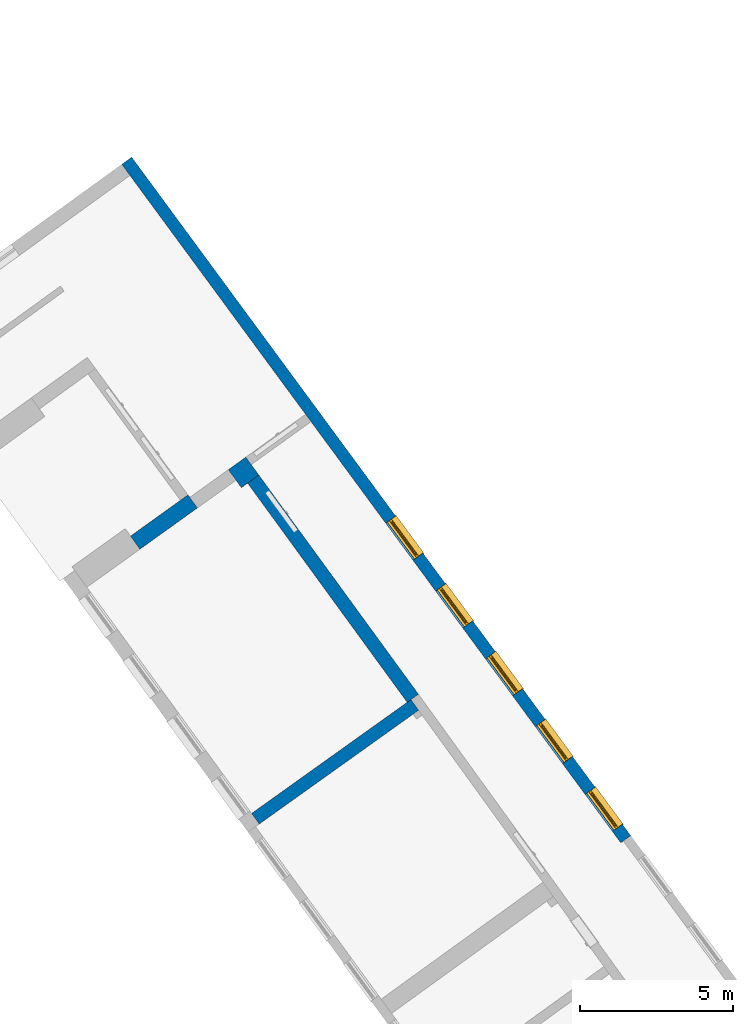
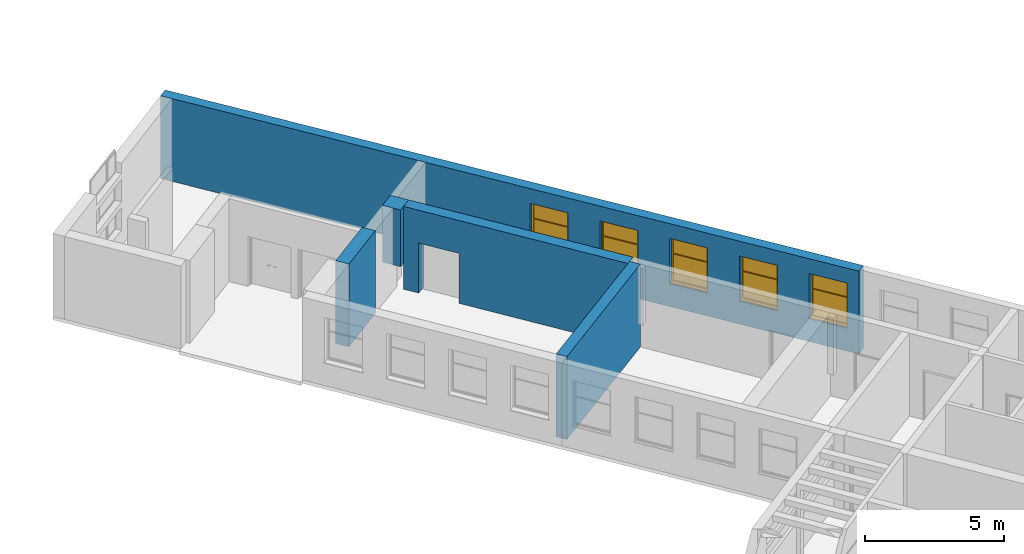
"""IFC2X3 building model written with IfcOpenShell, lengths in millimetres."""

from ifc_helpers import new_model, entity, si_unit, converted_unit, derived_unit, direction, frame, frame_2d, origin, place, context, subcontext, project, spatial, polyline, rectangle, outline, extrude, faceted_brep, source, transform, mapped, material, material_list, layer, layer_set, layer_usage, type_object, type_shapes, element, fill, save


model = new_model("IFC2X3")

# Units and contexts
model_context = context("Model", 3, precision=0.01, world=origin(), true_north=direction((6.123031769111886e-17, 1.0)))
body_context = subcontext(model_context, "Body", "Model", "MODEL_VIEW")
ifc_project = project(units=[si_unit("LENGTHUNIT", "METRE", prefix="MILLI"), si_unit("AREAUNIT", "SQUARE_METRE"), si_unit("VOLUMEUNIT", "CUBIC_METRE"), converted_unit("PLANEANGLEUNIT", "DEGREE", entity("IfcRatioMeasure", 0.017453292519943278), si_unit("PLANEANGLEUNIT", "RADIAN"), dimensions=[0, 0, 0, 0, 0, 0, 0]), si_unit("MASSUNIT", "GRAM", prefix="KILO"), derived_unit("MASSDENSITYUNIT", [(si_unit("MASSUNIT", "GRAM", prefix="KILO"), 1), (si_unit("LENGTHUNIT", "METRE"), -3)]), derived_unit("MOMENTOFINERTIAUNIT", [(si_unit("LENGTHUNIT", "METRE"), 4)]), si_unit("TIMEUNIT", "SECOND"), si_unit("FREQUENCYUNIT", "HERTZ"), si_unit("THERMODYNAMICTEMPERATUREUNIT", "DEGREE_CELSIUS"), derived_unit("THERMALTRANSMITTANCEUNIT", [(si_unit("MASSUNIT", "GRAM", prefix="KILO"), 1), (si_unit("THERMODYNAMICTEMPERATUREUNIT", "KELVIN"), -1), (si_unit("TIMEUNIT", "SECOND"), -3)]), derived_unit("THERMALCONDUCTANCEUNIT", [(si_unit("MASSUNIT", "GRAM", prefix="KILO"), 1), (si_unit("LENGTHUNIT", "METRE"), 1), (si_unit("THERMODYNAMICTEMPERATUREUNIT", "KELVIN"), -1), (si_unit("TIMEUNIT", "SECOND"), -3)]), derived_unit("VOLUMETRICFLOWRATEUNIT", [(si_unit("LENGTHUNIT", "METRE"), 3), (si_unit("TIMEUNIT", "SECOND"), -1)]), derived_unit("MASSFLOWRATEUNIT", [(si_unit("MASSUNIT", "GRAM", prefix="KILO"), 1), (si_unit("TIMEUNIT", "SECOND"), -1)]), derived_unit("ROTATIONALFREQUENCYUNIT", [(si_unit("TIMEUNIT", "SECOND"), -1)]), si_unit("ELECTRICCURRENTUNIT", "AMPERE"), si_unit("ELECTRICVOLTAGEUNIT", "VOLT"), si_unit("POWERUNIT", "WATT"), converted_unit("FORCEUNIT", "KIP", entity("IfcRatioMeasure", 2.088543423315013e-05), si_unit("FORCEUNIT", "NEWTON"), dimensions=[1, 1, -2, 0, 0, 0, 0]), si_unit("ILLUMINANCEUNIT", "LUX"), si_unit("LUMINOUSFLUXUNIT", "LUMEN"), si_unit("LUMINOUSINTENSITYUNIT", "CANDELA"), derived_unit("USERDEFINED", [(si_unit("MASSUNIT", "GRAM", prefix="KILO"), -1), (si_unit("LENGTHUNIT", "METRE"), -2), (si_unit("TIMEUNIT", "SECOND"), 3), (si_unit("LUMINOUSFLUXUNIT", "LUMEN"), 1)]), derived_unit("USERDEFINED", [(si_unit("MASSUNIT", "GRAM", prefix="KILO"), 1), (si_unit("LENGTHUNIT", "METRE"), 3), (si_unit("TIMEUNIT", "SECOND"), -3), (si_unit("ELECTRICCURRENTUNIT", "AMPERE"), -2)]), derived_unit("USERDEFINED", [(si_unit("LENGTHUNIT", "METRE"), 2), (si_unit("TIMEUNIT", "SECOND"), -2)]), derived_unit("SOUNDPOWERUNIT", [(si_unit("MASSUNIT", "GRAM", prefix="KILO"), 1), (si_unit("LENGTHUNIT", "METRE"), 2), (si_unit("TIMEUNIT", "SECOND"), -3)]), derived_unit("SOUNDPRESSUREUNIT", [(si_unit("MASSUNIT", "GRAM", prefix="KILO"), 1), (si_unit("LENGTHUNIT", "METRE"), -1), (si_unit("TIMEUNIT", "SECOND"), -2)]), derived_unit("LINEARVELOCITYUNIT", [(si_unit("LENGTHUNIT", "METRE"), 1), (si_unit("TIMEUNIT", "SECOND"), -1)]), si_unit("PRESSUREUNIT", "PASCAL"), derived_unit("USERDEFINED", [(si_unit("LENGTHUNIT", "METRE"), -2), (si_unit("MASSUNIT", "GRAM", prefix="KILO"), 1), (si_unit("TIMEUNIT", "SECOND"), -2)]), derived_unit("LINEARFORCEUNIT", [(si_unit("MASSUNIT", "GRAM", prefix="KILO"), 1), (si_unit("LENGTHUNIT", "METRE"), 1), (si_unit("TIMEUNIT", "SECOND"), -2), (si_unit("LENGTHUNIT", "METRE"), -1)]), derived_unit("PLANARFORCEUNIT", [(si_unit("MASSUNIT", "GRAM", prefix="KILO"), 1), (si_unit("LENGTHUNIT", "METRE"), 1), (si_unit("TIMEUNIT", "SECOND"), -2), (si_unit("LENGTHUNIT", "METRE"), -2)]), derived_unit("SPECIFICHEATCAPACITYUNIT", [(si_unit("LENGTHUNIT", "METRE"), 2), (si_unit("TIMEUNIT", "SECOND"), -2), (si_unit("THERMODYNAMICTEMPERATUREUNIT", "KELVIN"), -1)]), derived_unit("VAPORPERMEABILITYUNIT", [(si_unit("TIMEUNIT", "SECOND"), 1), (si_unit("LENGTHUNIT", "METRE"), -1)]), derived_unit("DYNAMICVISCOSITYUNIT", [(si_unit("MASSUNIT", "GRAM", prefix="KILO"), 1), (si_unit("LENGTHUNIT", "METRE"), -1), (si_unit("TIMEUNIT", "SECOND"), -1)]), derived_unit("THERMALEXPANSIONCOEFFICIENTUNIT", [(si_unit("THERMODYNAMICTEMPERATUREUNIT", "KELVIN"), -1)])], contexts=[model_context])

# Site, building, storey
site_placement = place(None, frame((0.0, 0.0, 0.0), z_axis=(0.0, 0.0, 1.0), x_axis=(0.8191520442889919, 0.5735764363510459, 0.0)))
site = spatial("IfcSite", under=ifc_project, at=site_placement, Name="Default", CompositionType="ELEMENT")
building_placement = place(site_placement, origin())
building = spatial("IfcBuilding", under=site, at=building_placement, CompositionType="ELEMENT")
storey_1_placement = place(building_placement, origin())
storey_1 = spatial("IfcBuildingStorey", under=building, at=storey_1_placement, Name="1.EG +0.00", CompositionType="ELEMENT", Elevation=-4.331468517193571e-12)

# Wall, opening
ifc_material_1 = material(Name="Analytical Wall Surface_CJC")
ifc_layer_1 = layer(ifc_material_1, 450.00000000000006)
ifc_layer_set_1 = layer_set([ifc_layer_1], Name="Basic Wall:Wand_Innen_45")
ifc_layer_usage_1 = layer_usage(ifc_layer_set_1, "AXIS2", "POSITIVE", -225.00000000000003)
wall_type_1 = type_object("IfcWallType", Name="Basic Wall:Wand_Innen_45", PredefinedType="STANDARD", material=ifc_layer_set_1)
wall_1_placement = place(storey_1_placement, frame((-184403.73033555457, 178460.05173972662, -1150.0), z_axis=(0.0, 0.0, 1.0), x_axis=(-0.018532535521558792, 0.9998282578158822, 0.0)))
wall_1 = element("IfcWallStandardCase", 1, at=wall_1_placement, inside=storey_1, type_object=wall_type_1, material=ifc_layer_usage_1, Name="Basic Wall:Wand_Innen_45", ObjectType="Basic Wall:Wand_Innen_45", context=body_context, shape_type="SweptSolid", body=[
    extrude(outline(polyline([(0.0, -225.0), (8865.515535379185, -225.0), (8865.5155353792, 225.0), (7085.786152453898, 225.0), (6785.780042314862, 225.0), (4773.382208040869, 225.0), (4473.375205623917, 225.0), (2443.311171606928, 225.0), (2143.311149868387, 225.0), (4.133318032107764, 225.0), (2.7581255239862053, 75.28090656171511), (0.0, -225.0)])), origin(), (0.0, 0.0, 1.0), 3650.000000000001),
])
opening_1_placement = place(wall_1_placement, frame((8265.515535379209, 225.0, 0.0)))
element("IfcOpeningElement", 2, at=opening_1_placement, cuts=wall_1, Name="M_Door-Passage-Double-Flush:150x210:1", ObjectType="Opening", context=body_context, shape_type="SweptSolid", body=[
    extrude(rectangle(XDim=2200.0, YDim=1599.999999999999, at=frame_2d((1100.0, 799.9999999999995), x_axis=(1.0, 0.0))), frame((0.0, 0.0, 0.0), z_axis=(0.0, -1.0, 0.0), x_axis=(0.0, 0.0, 1.0)), (0.0, 0.0, 1.0), 449.99999999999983),
])

# Wall, openings
ifc_layer_2 = layer(ifc_material_1, 400.0)
ifc_layer_set_2 = layer_set([ifc_layer_2], Name="Basic Wall:Wand_Aussen_40")
ifc_layer_usage_2 = layer_usage(ifc_layer_set_2, "AXIS2", "POSITIVE", -200.0)
wall_type_2 = type_object("IfcWallType", Name="Basic Wall:Wand_Aussen_40", PredefinedType="STANDARD", material=ifc_layer_set_2)
wall_2_placement = place(storey_1_placement, frame((-181345.3016697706, 170698.64050641, -1150.0), z_axis=(0.0, 0.0, 1.0), x_axis=(-0.02327581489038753, 0.9997290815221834, 0.0)))
wall_2 = element("IfcWallStandardCase", 3, at=wall_2_placement, inside=storey_1, type_object=wall_type_2, material=ifc_layer_usage_2, Name="Basic Wall:Wand_Aussen_40", ObjectType="Basic Wall:Wand_Aussen_40", context=body_context, shape_type="SweptSolid", body=[
    extrude(outline(polyline([(27523.528676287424, -200.0), (27526.658686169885, 200.0), (27076.644909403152, 200.0), (17386.73076779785, 200.0), (17086.710123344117, 200.0), (0.0, 200.0), (0.0, 100.0), (0.0, -200.0), (27523.528676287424, -200.0)])), origin(), (0.0, 0.0, 1.0), 3650.0000000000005),
])
opening_2_placement = place(wall_2_placement, frame((11463.509414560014, -200.0, 1000.0)))
opening_2 = element("IfcOpeningElement", 4, at=opening_2_placement, cuts=wall_2, Name="Windows_Sgl_Horz_Bars:200x150:1", ObjectType="Opening", context=body_context, shape_type="SweptSolid", body=[
    extrude(rectangle(XDim=2000.000000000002, YDim=1500.0, at=frame_2d((1000.0000000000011, 750.0000000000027), x_axis=(-1.0, 0.0))), frame((0.0, 0.0, 0.0), z_axis=(0.0, 1.0, 0.0), x_axis=(0.0, 0.0, 1.0)), (0.0, 0.0, 1.0), 400.0),
])
opening_3_placement = place(wall_2_placement, frame((8713.50941455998, -200.0, 1000.0)))
opening_3 = element("IfcOpeningElement", 5, at=opening_3_placement, cuts=wall_2, Name="Windows_Sgl_Horz_Bars:200x150:1", ObjectType="Opening", context=body_context, shape_type="SweptSolid", body=[
    extrude(rectangle(XDim=2000.000000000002, YDim=1500.0, at=frame_2d((1000.0000000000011, 750.0000000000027), x_axis=(-1.0, 0.0))), frame((0.0, 0.0, 0.0), z_axis=(0.0, 1.0, 0.0), x_axis=(0.0, 0.0, 1.0)), (0.0, 0.0, 1.0), 400.0),
])
opening_4_placement = place(wall_2_placement, frame((5963.509414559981, -200.0, 1000.0)))
opening_4 = element("IfcOpeningElement", 6, at=opening_4_placement, cuts=wall_2, Name="Windows_Sgl_Horz_Bars:200x150:1", ObjectType="Opening", context=body_context, shape_type="SweptSolid", body=[
    extrude(rectangle(XDim=2000.000000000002, YDim=1500.0, at=frame_2d((1000.0000000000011, 750.0000000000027), x_axis=(-1.0, 0.0))), frame((0.0, 0.0, 0.0), z_axis=(0.0, 1.0, 0.0), x_axis=(0.0, 0.0, 1.0)), (0.0, 0.0, 1.0), 400.0),
])
opening_5_placement = place(wall_2_placement, frame((3213.5094145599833, -200.0, 1000.0)))
opening_5 = element("IfcOpeningElement", 7, at=opening_5_placement, cuts=wall_2, Name="Windows_Sgl_Horz_Bars:200x150:1", ObjectType="Opening", context=body_context, shape_type="SweptSolid", body=[
    extrude(rectangle(XDim=2000.000000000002, YDim=1500.0, at=frame_2d((1000.0000000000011, 750.0000000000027), x_axis=(-1.0, 0.0))), frame((0.0, 0.0, 0.0), z_axis=(0.0, 1.0, 0.0), x_axis=(0.0, 0.0, 1.0)), (0.0, 0.0, 1.0), 400.0),
])
opening_6_placement = place(wall_2_placement, frame((463.50941455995, -200.0, 1000.0)))
opening_6 = element("IfcOpeningElement", 8, at=opening_6_placement, cuts=wall_2, Name="Windows_Sgl_Horz_Bars:200x150:1", ObjectType="Opening", context=body_context, shape_type="SweptSolid", body=[
    extrude(rectangle(XDim=2000.000000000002, YDim=1500.0000000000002, at=frame_2d((1000.0000000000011, 750.00000000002), x_axis=(-1.0, 0.0))), frame((0.0, 0.0, 0.0), z_axis=(0.0, 1.0, 0.0), x_axis=(0.0, 0.0, 1.0)), (0.0, 0.0, 1.0), 400.0),
])

# Storey
storey_2_placement = place(building_placement, frame((0.0, 0.0, -1150.0)))
storey_2 = spatial("IfcBuildingStorey", under=building, at=storey_2_placement, Name="6.EG KH -1.15", CompositionType="ELEMENT", Elevation=-1150.0000000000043)

# Window
ifc_material_2 = material(Name="Window Frame")
ifc_material_3 = material(Name="Glass")
ifc_material_list = material_list([ifc_material_2, ifc_material_3])
window_style = type_object("IfcWindowStyle", Name="Windows_Sgl_Horz_Bars:200x150", ConstructionType="NOTDEFINED", OperationType="SINGLE_PANEL", ParameterTakesPrecedence=False, Sizeable=False, material=ifc_material_list)
shared_shape = source(origin(), body_context, "Body", "Brep", [
    faceted_brep([(-25.0, -25.0, 0.0), (-25.0, 0.0, 0.0), (0.0, 0.0, 0.0), (0.0, 167.0, 0.0), (1500.0, 167.0, 0.0), (1500.0, 0.0, 0.0), (1525.0, 0.0, 0.0), (1525.0, -25.0, 0.0), (-25.0, -25.0, 25.0), (1525.0, -25.0, 25.0), (1525.0, 0.0, 25.0), (1500.0, 0.0, 25.0), (1500.0, 167.0, 25.0), (0.0, 167.0, 25.0), (0.0, 0.0, 25.0), (-25.0, 0.0, 25.0)], [[[0, 1, 2, 3, 4, 5, 6, 7]], [[8, 9, 10, 11, 12, 13, 14, 15]], [[1, 0, 8, 15]], [[2, 1, 15, 14]], [[3, 2, 14, 13]], [[4, 3, 13, 12]], [[5, 4, 12, 11]], [[6, 5, 11, 10]], [[7, 6, 10, 9]], [[0, 7, 9, 8]]]),
    faceted_brep([(0.0, 167.0, 0.0), (1500.0, 167.0, 0.0), (1500.0, 167.0, 2000.0), (0.0, 167.0, 2000.0), (60.0, 167.0, 1940.0), (1440.0, 167.0, 1940.0), (1440.0, 167.0, 75.0), (60.0, 167.0, 75.0), (0.0, 250.0, 2000.0), (0.0, 250.0, 51.0), (0.0, 265.0, 49.68767004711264), (0.0, 265.0, 44.74496761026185), (0.0, 337.50000000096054, 33.80888466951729), (0.0, 337.50000000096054, 0.0), (1500.0, 250.0, 2000.0), (1500.0, 250.0, 51.0), (40.0, 250.0, 1960.0), (40.0, 250.0, 63.0), (1460.0, 250.0, 63.0), (1460.0, 250.0, 1960.0), (40.0, 185.0, 1960.0), (40.0, 185.0, 63.0), (60.0, 185.0, 1940.0), (60.0, 185.0, 75.0), (1440.0, 185.0, 75.0), (1440.0, 185.0, 1940.0), (1460.0, 185.0, 1960.0), (1460.0, 185.0, 63.0), (1500.0, 337.50000000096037, 0.0), (1500.0, 337.50000000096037, 33.80888466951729), (1500.0, 265.0, 44.74496761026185), (1500.0, 265.0, 49.68767004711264)], [[[0, 1, 2, 3], [4, 5, 6, 7]], [[0, 3, 8, 9, 10, 11, 12, 13]], [[9, 8, 14, 15], [16, 17, 18, 19]], [[17, 16, 20, 21]], [[22, 23, 24, 25], [20, 26, 27, 21]], [[22, 4, 7, 23]], [[3, 2, 14, 8]], [[16, 19, 26, 20]], [[5, 4, 22, 25]], [[15, 14, 2, 1, 28, 29, 30, 31]], [[19, 18, 27, 26]], [[5, 25, 24, 6]], [[28, 1, 0, 13]], [[29, 28, 13, 12]], [[30, 29, 12, 11]], [[31, 30, 11, 10]], [[15, 31, 10, 9]], [[21, 27, 18, 17]], [[7, 6, 24, 23]]], outer=[[True, False], [True], [True, False], [True], [False, True], [True], [True], [True], [True], [True], [True], [True], [True], [True], [True], [True], [True], [True], [True]]),
    faceted_brep([(1430.1480377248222, 214.0, 93.0), (1430.1480377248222, 214.0, 1254.8307627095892), (70.0, 214.0, 1254.8307627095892), (70.0, 214.0, 93.0), (1430.1480377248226, 238.0, 93.0), (1430.1480377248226, 238.0, 1254.8307627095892), (70.0, 238.0, 1254.8307627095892), (70.0, 238.0, 93.0)], [[[0, 1, 2, 3]], [[1, 0, 4, 5]], [[2, 1, 5, 6]], [[3, 2, 6, 7]], [[0, 3, 7, 4]], [[4, 7, 6, 5]]]),
    faceted_brep([(70.0, 238.0, 1265.1692372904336), (70.0, 238.0, 1930.0), (1430.148037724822, 238.0, 1930.0), (1430.1480377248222, 238.0, 1265.1692372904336), (1430.1480377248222, 214.0, 1265.1692372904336), (70.0, 214.0, 1265.1692372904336), (1430.148037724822, 214.0, 1930.0), (70.0, 214.0, 1930.0)], [[[0, 1, 2, 3]], [[4, 5, 0, 3]], [[6, 4, 3, 2]], [[7, 6, 2, 1]], [[5, 7, 1, 0]], [[5, 4, 6, 7]]]),
    faceted_brep([(1430.1480377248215, 261.54700538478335, 1265.1692372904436), (1430.1480377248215, 255.87121188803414, 1275.0), (1430.1480377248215, 238.0, 1275.0), (1430.1480377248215, 238.0, 1268.0), (1430.1480377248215, 214.0, 1268.0), (1430.1480377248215, 214.0, 1275.0), (1430.1480377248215, 199.4928998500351, 1275.0), (1430.1480377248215, 185.0, 1269.8519622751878), (1430.1480377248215, 185.0, 1250.1480377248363), (1430.1480377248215, 199.4928998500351, 1245.0), (1430.1480377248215, 214.0, 1245.0), (1430.1480377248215, 214.0, 1252.0), (1430.1480377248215, 238.0, 1252.0), (1430.1480377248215, 238.0, 1245.0), (1430.1480377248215, 255.87121188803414, 1245.0), (1430.1480377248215, 261.54700538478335, 1254.8307627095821), (69.85196227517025, 261.5470053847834, 1265.1692372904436), (69.85196227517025, 261.5470053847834, 1254.8307627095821), (69.85196227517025, 255.8712118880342, 1245.0), (69.85196227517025, 238.0, 1245.0), (69.85196227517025, 238.0, 1252.0), (69.85196227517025, 214.0, 1252.0), (69.85196227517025, 214.0, 1245.0), (69.85196227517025, 199.49289985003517, 1245.0), (69.85196227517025, 185.0, 1250.1480377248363), (69.85196227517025, 185.0, 1269.8519622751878), (69.85196227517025, 199.49289985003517, 1275.0), (69.85196227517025, 214.0, 1275.0), (69.85196227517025, 214.0, 1268.0), (69.85196227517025, 238.0, 1268.0), (69.85196227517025, 238.0, 1275.0), (69.85196227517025, 255.8712118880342, 1275.0)], [[[0, 1, 2, 3, 4, 5, 6, 7, 8, 9, 10, 11, 12, 13, 14, 15]], [[16, 17, 18, 19, 20, 21, 22, 23, 24, 25, 26, 27, 28, 29, 30, 31]], [[1, 0, 16, 31]], [[2, 1, 31, 30]], [[3, 2, 30, 29]], [[4, 3, 29, 28]], [[5, 4, 28, 27]], [[6, 5, 27, 26]], [[7, 6, 26, 25]], [[8, 7, 25, 24]], [[9, 8, 24, 23]], [[10, 9, 23, 22]], [[11, 10, 22, 21]], [[12, 11, 21, 20]], [[13, 12, 20, 19]], [[14, 13, 19, 18]], [[15, 14, 18, 17]], [[0, 15, 17, 16]]]),
    faceted_brep([(30.0, 250.0, 1970.0), (30.0, 255.77350269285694, 1970.0), (30.0, 255.77350269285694, 53.0), (30.0, 250.0, 53.0), (40.0, 185.0, 1960.0), (40.0, 250.0, 1960.0), (40.0, 250.0, 63.0), (40.0, 185.0, 63.0), (80.0, 199.4928998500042, 1920.0), (69.85196227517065, 185.0, 1930.1480377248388), (69.85196227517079, 185.0, 92.85196227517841), (80.0, 199.4928998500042, 103.0), (80.0, 214.0, 1920.0), (80.0, 214.0, 103.0), (70.0, 238.0, 1930.0), (70.0, 214.0, 1930.0), (70.0, 214.0, 93.0), (70.0, 238.0, 93.0), (80.0, 255.77350269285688, 1920.0), (80.0, 238.0, 1920.0), (80.0, 238.0, 103.0), (80.0, 255.77350269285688, 103.0), (70.0, 261.5470053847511, 1930.0), (70.0, 261.54700538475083, 93.0), (40.784609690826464, 261.5470053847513, 1959.2153903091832), (40.784609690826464, 261.5470053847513, 63.784609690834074), (1470.0, 255.77350269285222, 53.0), (1470.0, 250.0, 53.0), (1460.0, 250.0, 63.0), (1460.0, 185.0, 63.0), (1430.148037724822, 185.0, 92.85196227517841), (1420.0, 199.49289984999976, 103.0), (1420.0, 214.0, 103.0), (1430.0, 214.0, 93.0), (1430.0, 238.0, 93.0), (1420.0, 238.0, 103.0), (1420.0, 255.77350269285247, 103.0), (1430.0, 261.54700538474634, 93.0), (1459.2153903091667, 261.5470053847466, 63.784609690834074), (1470.0, 255.77350269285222, 1970.0), (1470.0, 250.0, 1970.0), (1460.0, 250.0, 1960.0), (1460.0, 185.0, 1960.0), (1430.148037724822, 185.0, 1930.1480377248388), (1420.0, 199.49289984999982, 1920.0), (1420.0, 214.0, 1920.0), (1430.0, 214.0, 1930.0), (1430.0, 238.0, 1930.0), (1420.0, 238.0, 1920.0), (1420.0, 255.77350269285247, 1920.0), (1430.0, 261.5470053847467, 1930.0), (1459.2153903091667, 261.5470053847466, 1959.2153903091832)], [[[0, 1, 2, 3]], [[4, 5, 6, 7]], [[8, 9, 10, 11]], [[12, 8, 11, 13]], [[14, 15, 16, 17]], [[18, 19, 20, 21]], [[22, 18, 21, 23]], [[1, 24, 25, 2]], [[3, 2, 26, 27]], [[7, 6, 28, 29]], [[11, 10, 30, 31]], [[13, 11, 31, 32]], [[17, 16, 33, 34]], [[21, 20, 35, 36]], [[23, 21, 36, 37]], [[2, 25, 38, 26]], [[27, 26, 39, 40]], [[29, 28, 41, 42]], [[31, 30, 43, 44]], [[32, 31, 44, 45]], [[34, 33, 46, 47]], [[36, 35, 48, 49]], [[37, 36, 49, 50]], [[26, 38, 51, 39]], [[40, 39, 1, 0]], [[3, 27, 40, 0], [5, 41, 28, 6]], [[42, 41, 5, 4]], [[7, 29, 42, 4], [9, 43, 30, 10]], [[44, 43, 9, 8]], [[45, 44, 8, 12]], [[13, 32, 45, 12], [15, 46, 33, 16]], [[47, 46, 15, 14]], [[17, 34, 47, 14], [19, 48, 35, 20]], [[49, 48, 19, 18]], [[50, 49, 18, 22]], [[23, 37, 50, 22], [24, 51, 38, 25]], [[39, 51, 24, 1]]], outer=[[True], [True], [True], [True], [True], [True], [True], [True], [True], [True], [True], [True], [True], [True], [True], [True], [True], [True], [True], [True], [True], [True], [True], [True], [True], [True, False], [True], [True, False], [True], [True], [False, True], [True], [True, False], [True], [True], [False, True], [True]]),
])
type_shapes(window_style, [shared_shape])
window_1_placement = place(opening_2_placement, origin())
window_1 = element("IfcWindow", 9, at=window_1_placement, inside=storey_2, type_object=window_style, material=ifc_material_list, Name="Windows_Sgl_Horz_Bars:200x150", ObjectType="Windows_Sgl_Horz_Bars:200x150", OverallHeight=2000.0000000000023, OverallWidth=1500.0000000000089, context=body_context, shape_type="MappedRepresentation", body=[
    mapped(shared_shape, transform((0.0, 0.0, 0.0), scale=1.0)),
])

fill(opening_2, window_1)

window_2_placement = place(opening_3_placement, origin())
window_2 = element("IfcWindow", 10, at=window_2_placement, inside=storey_2, type_object=window_style, material=ifc_material_list, Name="Windows_Sgl_Horz_Bars:200x150", ObjectType="Windows_Sgl_Horz_Bars:200x150", OverallHeight=2000.0000000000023, OverallWidth=1500.0000000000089, context=body_context, shape_type="MappedRepresentation", body=[
    mapped(shared_shape, transform((0.0, 0.0, 0.0), scale=1.0)),
])

fill(opening_3, window_2)

window_3_placement = place(opening_4_placement, origin())
window_3 = element("IfcWindow", 11, at=window_3_placement, inside=storey_2, type_object=window_style, material=ifc_material_list, Name="Windows_Sgl_Horz_Bars:200x150", ObjectType="Windows_Sgl_Horz_Bars:200x150", OverallHeight=2000.0000000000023, OverallWidth=1500.0000000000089, context=body_context, shape_type="MappedRepresentation", body=[
    mapped(shared_shape, transform((0.0, 0.0, 0.0), scale=1.0)),
])

fill(opening_4, window_3)

window_4_placement = place(opening_5_placement, origin())
window_4 = element("IfcWindow", 12, at=window_4_placement, inside=storey_2, type_object=window_style, material=ifc_material_list, Name="Windows_Sgl_Horz_Bars:200x150", ObjectType="Windows_Sgl_Horz_Bars:200x150", OverallHeight=2000.0000000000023, OverallWidth=1500.000000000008, context=body_context, shape_type="MappedRepresentation", body=[
    mapped(shared_shape, transform((0.0, 0.0, 0.0), scale=1.0)),
])

fill(opening_5, window_4)

window_5_placement = place(opening_6_placement, origin())
window_5 = element("IfcWindow", 13, at=window_5_placement, inside=storey_2, type_object=window_style, material=ifc_material_list, Name="Windows_Sgl_Horz_Bars:200x150", ObjectType="Windows_Sgl_Horz_Bars:200x150", OverallHeight=2000.0000000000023, OverallWidth=1500.0000000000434, context=body_context, shape_type="MappedRepresentation", body=[
    mapped(shared_shape, transform((0.0, 0.0, 0.0), scale=1.0)),
])

fill(opening_6, window_5)

# Wall
ifc_layer_3 = layer(ifc_material_1, 525.0)
ifc_layer_set_3 = layer_set([ifc_layer_3], Name="Basic Wall:Wand_Aussen_52.5")
ifc_layer_usage_3 = layer_usage(ifc_layer_set_3, "AXIS2", "NEGATIVE", 262.5)
wall_type_3 = type_object("IfcWallType", Name="Basic Wall:Wand_Aussen_52.5", PredefinedType="STANDARD", material=ifc_layer_set_3)
wall_3_placement = place(storey_1_placement, frame((-188918.04717386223, 187833.03274960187, -1150.0), z_axis=(0.0, 0.0, 1.0), x_axis=(0.9999333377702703, 0.011546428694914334, 0.0)))
element("IfcWallStandardCase", 14, at=wall_3_placement, inside=storey_1, type_object=wall_type_3, material=ifc_layer_usage_3, Name="Basic Wall:Wand_Aussen_52.5", ObjectType="Basic Wall:Wand_Aussen_52.5", context=body_context, shape_type="SweptSolid", body=[
    extrude(outline(polyline([(2314.231179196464, -262.5000000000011), (2310.106833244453, 162.4999999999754), (2309.1363989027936, 262.5000000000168), (2009.1222730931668, 262.50000000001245), (0.0, 262.49999999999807), (0.0, -262.49999999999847), (2314.231179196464, -262.5000000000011)])), origin(), (0.0, 0.0, 1.0), 3650.0000000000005),
])

# Wall, opening
ifc_layer_4 = layer(ifc_material_1, 425.0)
ifc_layer_set_4 = layer_set([ifc_layer_4], Name="Basic Wall:Wand_Innen_42.5")
ifc_layer_usage_4 = layer_usage(ifc_layer_set_4, "AXIS2", "NEGATIVE", 212.5)
wall_type_4 = type_object("IfcWallType", Name="Basic Wall:Wand_Innen_42.5", PredefinedType="STANDARD", material=ifc_layer_set_4)
wall_4_placement = place(storey_1_placement, frame((-184474.5586766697, 178248.94694301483, -1150.0), z_axis=(0.0, 0.0, 1.0), x_axis=(-0.9999563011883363, -0.009348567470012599, 0.0)))
wall_4 = element("IfcWallStandardCase", 15, at=wall_4_placement, inside=storey_1, type_object=wall_type_4, material=ifc_layer_usage_4, Name="Basic Wall:Wand_Innen_42.5", ObjectType="Basic Wall:Wand_Innen_42.5", context=body_context, shape_type="SweptSolid", body=[
    extrude(outline(polyline([(6402.423771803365, -212.49999999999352), (6398.5169779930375, 212.50000000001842), (0.0, 212.5000000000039), (2.504290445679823, -212.50000000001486), (152.22969942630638, -212.50000000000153), (6402.423771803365, -212.49999999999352)])), origin(), (0.0, 0.0, 1.0), 3650.000000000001),
])
opening_7_placement = place(wall_4_placement, origin())
element("IfcOpeningElement", 16, at=opening_7_placement, cuts=wall_4, Name="Basic Wall:Wand_Innen_42.5", ObjectType="Opening", context=body_context, shape_type="SweptSolid", body=[
    extrude(rectangle(XDim=2000.000000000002, YDim=450.00000000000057, at=frame_2d((-1.7635670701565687e-11, 0.0), x_axis=(0.0, 1.0))), frame((6642.0839341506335, -1806.2695126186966, 2000.0), z_axis=(-0.009192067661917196, 0.9999577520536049, 0.0), x_axis=(0.9999577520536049, 0.009192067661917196, 0.0)), (0.0, 0.0, 1.0), 1500.0000000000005),
])

# Wall
ifc_layer_5 = layer(ifc_material_1, 700.0)
ifc_layer_set_5 = layer_set([ifc_layer_5], Name="Basic Wall:Wand_Innen_70")
ifc_layer_usage_5 = layer_usage(ifc_layer_set_5, "AXIS2", "NEGATIVE", 350.0)
wall_type_5 = type_object("IfcWallType", Name="Basic Wall:Wand_Innen_70", PredefinedType="STANDARD", material=ifc_layer_set_5)
wall_5_placement = place(storey_1_placement, frame((-184693.00409031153, 187321.72822264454, 0.0), z_axis=(0.0, 0.0, 1.0), x_axis=(-0.01853253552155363, 0.9998282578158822, 0.0)))
element("IfcWallStandardCase", 17, at=wall_5_placement, inside=storey_1, type_object=wall_type_5, material=ifc_layer_usage_5, Name="Basic Wall:Wand_Innen_70", ObjectType="Basic Wall:Wand_Innen_70", context=body_context, shape_type="SweptSolid", body=[
    extrude(outline(polyline([(720.1267790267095, -350.0), (722.5618640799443, -1.4847065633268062), (722.5649151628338, -1.0480281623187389), (725.0176964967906, 350.0), (300.00732268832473, 350.0), (0.0, 350.0), (0.0, -350.0), (420.1194563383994, -350.0), (720.1267790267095, -350.0)])), origin(), (0.0, 0.0, 1.0), 2500.0),
])

save(model, "model.ifc")
